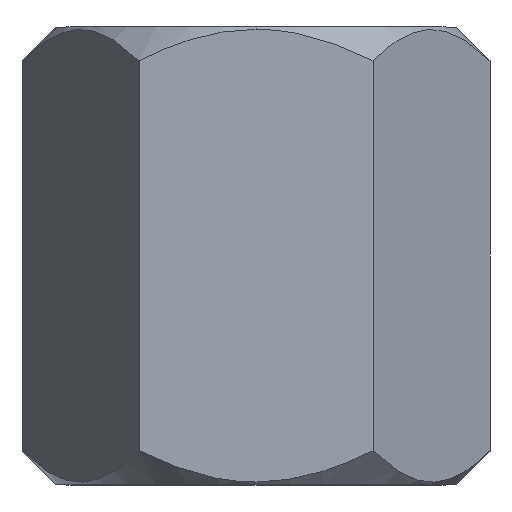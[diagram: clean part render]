
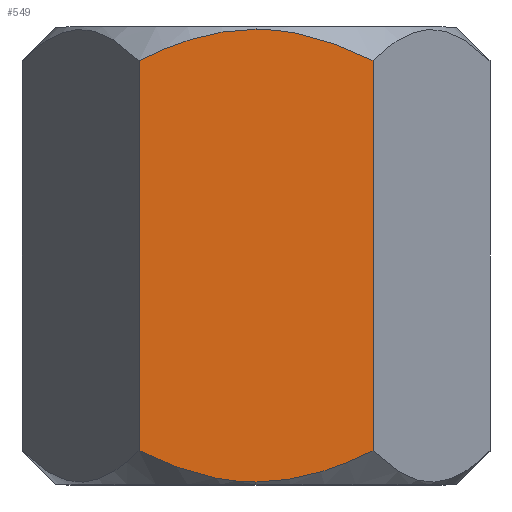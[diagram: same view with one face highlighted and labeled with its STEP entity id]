
A CAD part, top view. The second image highlights one B-rep face of the part: STEP entity #549.
In plain terms, the highlighted planar face has unit normal (0, 0, 1).
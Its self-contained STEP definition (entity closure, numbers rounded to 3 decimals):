
#4 = ORIENTED_EDGE ( 'NONE', *, *, #389, .T. ) ;
#6 = CARTESIAN_POINT ( 'NONE',  ( 6.376, 1.733, 11.97 ) ) ;
#16 = VERTEX_POINT ( 'NONE', #536 ) ;
#21 = CARTESIAN_POINT ( 'NONE',  ( -2.982, 0.502, 11.97 ) ) ;
#33 = EDGE_CURVE ( 'NONE', #385, #379, #537, .T. ) ;
#39 = CARTESIAN_POINT ( 'NONE',  ( -2.982, 26.538, 11.97 ) ) ;
#52 = CARTESIAN_POINT ( 'NONE',  ( 2.399, 26.704, 11.97 ) ) ;
#67 = EDGE_LOOP ( 'NONE', ( #517, #73, #128, #578, #599, #4 ) ) ;
#73 = ORIENTED_EDGE ( 'NONE', *, *, #33, .T. ) ;
#84 = CARTESIAN_POINT ( 'NONE',  ( -5.828, 25.558, 11.97 ) ) ;
#86 = CARTESIAN_POINT ( 'NONE',  ( -6.911, 27.04, 11.97 ) ) ;
#87 = EDGE_CURVE ( 'NONE', #478, #16, #402, .T. ) ;
#97 = CARTESIAN_POINT ( 'NONE',  ( 1.215, 0.148, 11.97 ) ) ;
#126 = CARTESIAN_POINT ( 'NONE',  ( -4.705, 26.01, 11.97 ) ) ;
#128 = ORIENTED_EDGE ( 'NONE', *, *, #602, .T. ) ;
#161 = CARTESIAN_POINT ( 'NONE',  ( -1.509, 0.239, 11.97 ) ) ;
#165 = CARTESIAN_POINT ( 'NONE',  ( -0.608, 0.16, 11.97 ) ) ;
#168 = CARTESIAN_POINT ( 'NONE',  ( 0., 26.892, 11.97 ) ) ;
#182 = CARTESIAN_POINT ( 'NONE',  ( -4.135, 26.21, 11.97 ) ) ;
#213 = CARTESIAN_POINT ( 'NONE',  ( -6.911, 2., 11.97 ) ) ;
#219 = CARTESIAN_POINT ( 'NONE',  ( -0.304, 26.892, 11.97 ) ) ;
#232 = CARTESIAN_POINT ( 'NONE',  ( -0.608, 26.88, 11.97 ) ) ;
#233 = CARTESIAN_POINT ( 'NONE',  ( -6.911, 25.04, 11.97 ) ) ;
#259 = PLANE ( 'NONE',  #473 ) ;
#260 = CARTESIAN_POINT ( 'NONE',  ( -5.828, 1.482, 11.97 ) ) ;
#273 = CARTESIAN_POINT ( 'NONE',  ( 0., 0.148, 11.97 ) ) ;
#279 = CARTESIAN_POINT ( 'NONE',  ( -2.398, 26.668, 11.97 ) ) ;
#300 = CARTESIAN_POINT ( 'NONE',  ( 0., 26.892, 11.97 ) ) ;
#303 = EDGE_CURVE ( 'NONE', #352, #385, #310, .T. ) ;
#304 = CARTESIAN_POINT ( 'NONE',  ( 4.137, 26.209, 11.97 ) ) ;
#306 = CARTESIAN_POINT ( 'NONE',  ( 4.713, 1.032, 11.97 ) ) ;
#307 = CARTESIAN_POINT ( 'NONE',  ( -6.911, 27.04, 11.97 ) ) ;
#310 = LINE ( 'NONE', #86, #521 ) ;
#344 = DIRECTION ( 'NONE',  ( 0., -1., 0. ) ) ;
#352 = VERTEX_POINT ( 'NONE', #514 ) ;
#353 = CARTESIAN_POINT ( 'NONE',  ( 6.911, 25.04, 11.97 ) ) ;
#356 = DIRECTION ( 'NONE',  ( -1., 0., 0. ) ) ;
#357 = CARTESIAN_POINT ( 'NONE',  ( -1.21, 0.206, 11.97 ) ) ;
#378 = DIRECTION ( 'NONE',  ( 0., -1., 0. ) ) ;
#379 = VERTEX_POINT ( 'NONE', #273 ) ;
#381 = VERTEX_POINT ( 'NONE', #465 ) ;
#382 = B_SPLINE_CURVE_WITH_KNOTS ( 'NONE', 3,
 ( #493, #443, #497, #391, #304, #52, #550, #300 ),
 .UNSPECIFIED., .F., .F.,
 ( 4, 2, 2, 4 ),
 ( 0.007, 0.009, 0.011, 0.015 ),
 .UNSPECIFIED. ) ;
#385 = VERTEX_POINT ( 'NONE', #609 ) ;
#389 = EDGE_CURVE ( 'NONE', #381, #352, #580, .T. ) ;
#390 = CARTESIAN_POINT ( 'NONE',  ( 6.911, 27.04, 11.97 ) ) ;
#391 = CARTESIAN_POINT ( 'NONE',  ( 4.713, 26.008, 11.97 ) ) ;
#394 = CARTESIAN_POINT ( 'NONE',  ( 6.911, 2., 11.97 ) ) ;
#402 = LINE ( 'NONE', #390, #513 ) ;
#405 = CARTESIAN_POINT ( 'NONE',  ( -2.398, 0.372, 11.97 ) ) ;
#424 = CARTESIAN_POINT ( 'NONE',  ( -1.21, 26.834, 11.97 ) ) ;
#443 = CARTESIAN_POINT ( 'NONE',  ( 6.376, 25.307, 11.97 ) ) ;
#444 = EDGE_CURVE ( 'NONE', #478, #381, #382, .T. ) ;
#450 = CARTESIAN_POINT ( 'NONE',  ( 2.399, 0.336, 11.97 ) ) ;
#465 = CARTESIAN_POINT ( 'NONE',  ( 0., 26.892, 11.97 ) ) ;
#473 = AXIS2_PLACEMENT_3D ( 'NONE', #307, #605, #356 ) ;
#474 = CARTESIAN_POINT ( 'NONE',  ( -1.509, 26.801, 11.97 ) ) ;
#478 = VERTEX_POINT ( 'NONE', #353 ) ;
#486 = B_SPLINE_CURVE_WITH_KNOTS ( 'NONE', 3,
 ( #551, #97, #450, #588, #306, #494, #6, #394 ),
 .UNSPECIFIED., .F., .F.,
 ( 4, 2, 2, 4 ),
 ( 0.016, 0.02, 0.021, 0.023 ),
 .UNSPECIFIED. ) ;
#493 = CARTESIAN_POINT ( 'NONE',  ( 6.911, 25.04, 11.97 ) ) ;
#494 = CARTESIAN_POINT ( 'NONE',  ( 5.831, 1.483, 11.97 ) ) ;
#497 = CARTESIAN_POINT ( 'NONE',  ( 5.831, 25.557, 11.97 ) ) ;
#510 = CARTESIAN_POINT ( 'NONE',  ( -4.705, 1.03, 11.97 ) ) ;
#511 = CARTESIAN_POINT ( 'NONE',  ( 0., 0.148, 11.97 ) ) ;
#513 = VECTOR ( 'NONE', #344, 1000. ) ;
#514 = CARTESIAN_POINT ( 'NONE',  ( -6.911, 25.04, 11.97 ) ) ;
#517 = ORIENTED_EDGE ( 'NONE', *, *, #303, .T. ) ;
#521 = VECTOR ( 'NONE', #378, 1000. ) ;
#528 = CARTESIAN_POINT ( 'NONE',  ( -6.375, 25.308, 11.97 ) ) ;
#536 = CARTESIAN_POINT ( 'NONE',  ( 6.911, 2., 11.97 ) ) ;
#537 = B_SPLINE_CURVE_WITH_KNOTS ( 'NONE', 3,
 ( #213, #558, #260, #510, #561, #21, #405, #161, #357, #165, #564, #511 ),
 .UNSPECIFIED., .F., .F.,
 ( 4, 2, 2, 2, 2, 4 ),
 ( 0.009, 0.011, 0.012, 0.014, 0.015, 0.016 ),
 .UNSPECIFIED. ) ;
#549 = ADVANCED_FACE ( 'NONE', ( #604 ), #259, .F. ) ;
#550 = CARTESIAN_POINT ( 'NONE',  ( 1.215, 26.892, 11.97 ) ) ;
#551 = CARTESIAN_POINT ( 'NONE',  ( 0., 0.148, 11.97 ) ) ;
#558 = CARTESIAN_POINT ( 'NONE',  ( -6.375, 1.732, 11.97 ) ) ;
#561 = CARTESIAN_POINT ( 'NONE',  ( -4.135, 0.83, 11.97 ) ) ;
#564 = CARTESIAN_POINT ( 'NONE',  ( -0.304, 0.148, 11.97 ) ) ;
#578 = ORIENTED_EDGE ( 'NONE', *, *, #87, .F. ) ;
#580 = B_SPLINE_CURVE_WITH_KNOTS ( 'NONE', 3,
 ( #168, #219, #232, #424, #474, #279, #39, #182, #126, #84, #528, #233 ),
 .UNSPECIFIED., .F., .F.,
 ( 4, 2, 2, 2, 2, 4 ),
 ( 0.015, 0.015, 0.016, 0.018, 0.02, 0.022 ),
 .UNSPECIFIED. ) ;
#588 = CARTESIAN_POINT ( 'NONE',  ( 4.137, 0.831, 11.97 ) ) ;
#599 = ORIENTED_EDGE ( 'NONE', *, *, #444, .T. ) ;
#602 = EDGE_CURVE ( 'NONE', #379, #16, #486, .T. ) ;
#604 = FACE_OUTER_BOUND ( 'NONE', #67, .T. ) ;
#605 = DIRECTION ( 'NONE',  ( 0., 0., -1. ) ) ;
#609 = CARTESIAN_POINT ( 'NONE',  ( -6.911, 2., 11.97 ) ) ;
